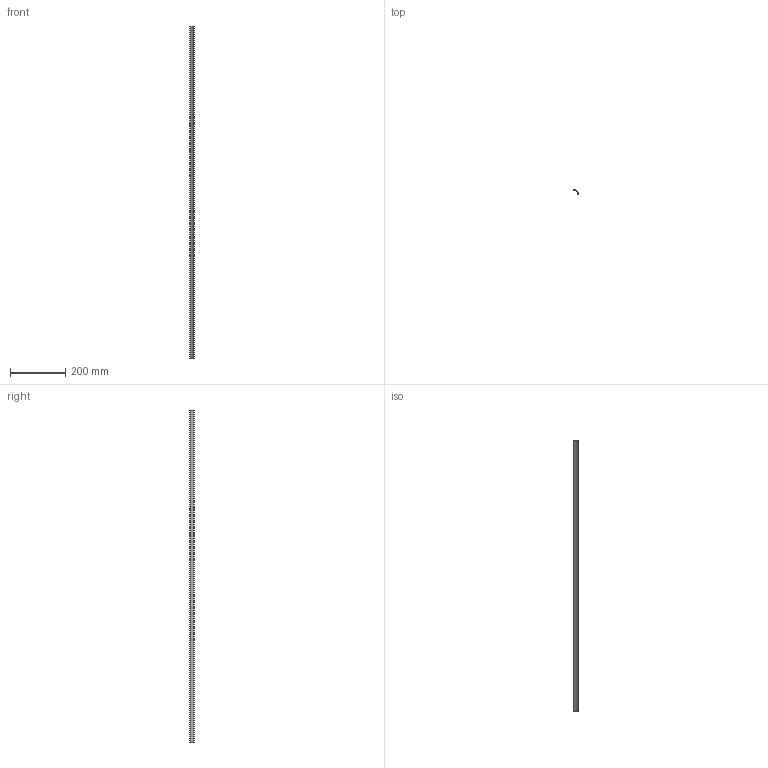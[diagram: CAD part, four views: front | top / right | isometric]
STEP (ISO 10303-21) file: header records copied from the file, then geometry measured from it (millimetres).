
FILE_DESCRIPTION (( 'STEP AP214' ), '1' );
FILE_NAME ('AC2 Lens.STEP', '2024-10-11T14:40:39', ( '' ), ( '' ), 'SwSTEP 2.0', 'SolidWorks 2023', '' );
FILE_SCHEMA (( 'AUTOMOTIVE_DESIGN' ));
Length unit declared in the file: millimetre
Products named in the file (1): AC2 Lens
Bounding box: 15.27 x 15.32 x 1200 mm (x, y, z)
Volume: 27991.2 mm3; surface area: 59727 mm2
Topology: 1 solids, 1 shells, 14 faces, 36 edges, 24 vertices
Faces by surface type: plane 12, cylinder 2
Entity records: 447 total; most frequent: CARTESIAN_POINT 75, ORIENTED_EDGE 72, DIRECTION 70, EDGE_CURVE 36, VECTOR 32, LINE 32, VERTEX_POINT 24, AXIS2_PLACEMENT_3D 19
